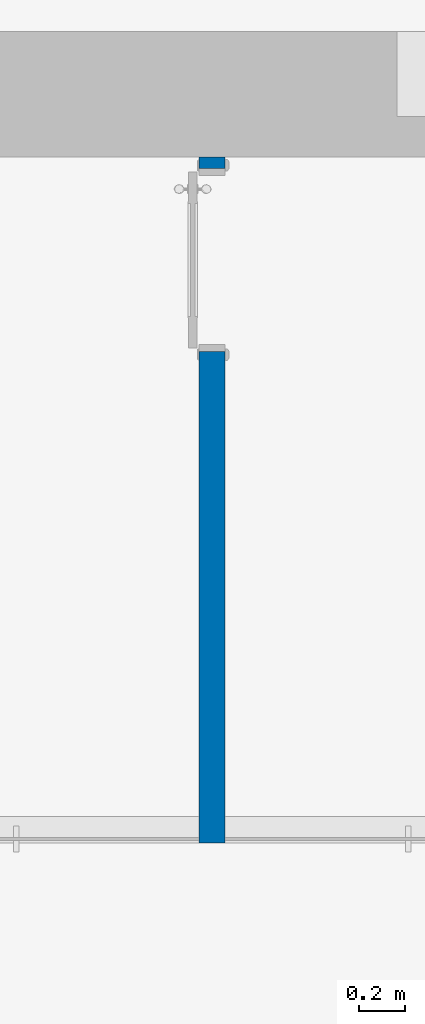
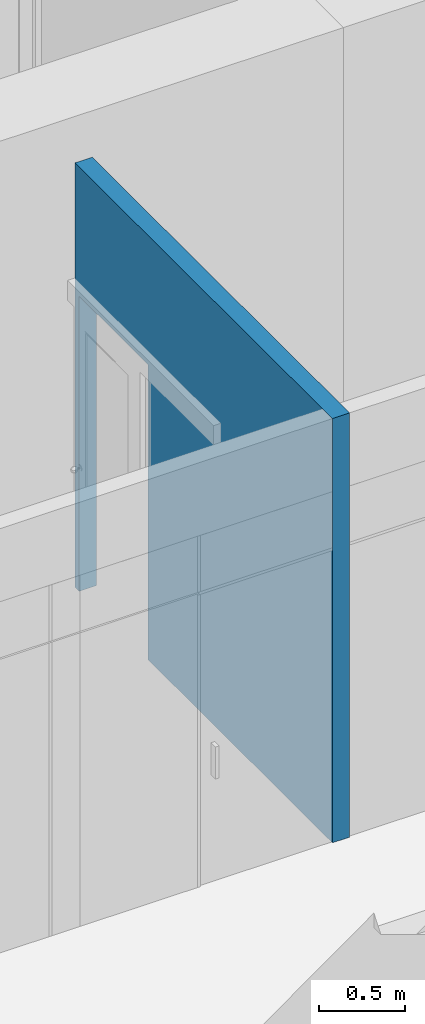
# One storey, part 21 of 49: 1 wall, 1 opening.
"""IFC2X3 building model written with IfcOpenShell, lengths in millimetres."""

from ifc_helpers import new_model, entity, si_unit, converted_unit, derived_unit, direction, frame, frame_2d, origin, place, context, subcontext, project, spatial, rectangle, extrude, material, layer, layer_set, layer_usage, type_object, element, save


model = new_model("IFC2X3")

# Units and contexts
model_context = context("Model", 3, precision=0.01, world=origin(), true_north=direction((6.12303176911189e-17, 1.0)))
body_context = subcontext(model_context, "Body", "Model", "MODEL_VIEW")
ifc_project = project(units=[si_unit("LENGTHUNIT", "METRE", prefix="MILLI"), si_unit("AREAUNIT", "SQUARE_METRE"), si_unit("VOLUMEUNIT", "CUBIC_METRE"), converted_unit("PLANEANGLEUNIT", "DEGREE", entity("IfcRatioMeasure", 0.0174532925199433), si_unit("PLANEANGLEUNIT", "RADIAN"), dimensions=[0, 0, 0, 0, 0, 0, 0]), si_unit("MASSUNIT", "GRAM", prefix="KILO"), derived_unit("MASSDENSITYUNIT", [(si_unit("MASSUNIT", "GRAM", prefix="KILO"), 1), (si_unit("LENGTHUNIT", "METRE"), -3)]), si_unit("TIMEUNIT", "SECOND"), si_unit("FREQUENCYUNIT", "HERTZ"), si_unit("THERMODYNAMICTEMPERATUREUNIT", "DEGREE_CELSIUS"), derived_unit("THERMALTRANSMITTANCEUNIT", [(si_unit("MASSUNIT", "GRAM", prefix="KILO"), 1), (si_unit("THERMODYNAMICTEMPERATUREUNIT", "KELVIN"), -1), (si_unit("TIMEUNIT", "SECOND"), -3)]), derived_unit("VOLUMETRICFLOWRATEUNIT", [(si_unit("LENGTHUNIT", "METRE"), 3), (si_unit("TIMEUNIT", "SECOND"), -1)]), si_unit("ELECTRICCURRENTUNIT", "AMPERE"), si_unit("ELECTRICVOLTAGEUNIT", "VOLT"), si_unit("POWERUNIT", "WATT"), si_unit("FORCEUNIT", "NEWTON", prefix="KILO"), si_unit("ILLUMINANCEUNIT", "LUX"), si_unit("LUMINOUSFLUXUNIT", "LUMEN"), si_unit("LUMINOUSINTENSITYUNIT", "CANDELA"), derived_unit("USERDEFINED", [(si_unit("MASSUNIT", "GRAM", prefix="KILO"), -1), (si_unit("LENGTHUNIT", "METRE"), -2), (si_unit("TIMEUNIT", "SECOND"), 3), (si_unit("LUMINOUSFLUXUNIT", "LUMEN"), 1)]), derived_unit("LINEARVELOCITYUNIT", [(si_unit("LENGTHUNIT", "METRE"), 1), (si_unit("TIMEUNIT", "SECOND"), -1)]), si_unit("PRESSUREUNIT", "PASCAL"), derived_unit("USERDEFINED", [(si_unit("LENGTHUNIT", "METRE"), -2), (si_unit("MASSUNIT", "GRAM", prefix="KILO"), 1), (si_unit("TIMEUNIT", "SECOND"), -2)])], contexts=[model_context])

# Site, building, storey
site_placement = place(None, frame((-151.875543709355, 2715.0, 0.0)))
site = spatial("IfcSite", under=ifc_project, at=site_placement, Name="Surface", CompositionType="ELEMENT")
building_placement = place(site_placement, origin())
building = spatial("IfcBuilding", under=site, at=building_placement, CompositionType="ELEMENT")
storey_placement = place(building_placement, origin())
storey = spatial("IfcBuildingStorey", under=building, at=storey_placement, Name="1 korrus", CompositionType="ELEMENT", Elevation=3.0969999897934e-10)

# Wall, opening
ifc_material_1 = material(Name="__Kips GN13_tava")
ifc_layer_1 = layer(ifc_material_1, 12.5)
ifc_layer_2 = layer(ifc_material_1, 12.5)
ifc_material_2 = material(Name="__Soojustus EPS")
ifc_layer_3 = layer(ifc_material_2, 66.0)
ifc_layer_4 = layer(ifc_material_1, 12.5)
ifc_layer_5 = layer(ifc_material_1, 12.5)
ifc_layer_set = layer_set([ifc_layer_1, ifc_layer_2, ifc_layer_3, ifc_layer_4, ifc_layer_5], Name="Basic Wall:SS-3_Kipssein tava ruumide vahel")
ifc_layer_usage = layer_usage(ifc_layer_set, "AXIS2", "POSITIVE", -58.0)
wall_type = type_object("IfcWallType", Name="Basic Wall:SS-3_Kipssein tava ruumide vahel", PredefinedType="STANDARD", material=ifc_layer_set)
wall_placement = place(storey_placement, frame((14480.2710850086, 3007.5, 0.0), z_axis=(0.0, 0.0, 1.0), x_axis=(0.0, 1.0, 0.0)))
wall = element("IfcWallStandardCase", 1, at=wall_placement, inside=storey, type_object=wall_type, material=ifc_layer_usage, Name="Basic Wall:SS-3_Kipssein tava ruumide vahel", ObjectType="Basic Wall:SS-3_Kipssein tava ruumide vahel", context=body_context, shape_type="SweptSolid", body=[
    extrude(rectangle(XDim=3002.5, YDim=116.0, at=frame_2d((1501.25, 1.59872115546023e-13), x_axis=(-1.0, 0.0))), origin(), (0.0, 0.0, 1.0), 3020.0),
])
opening_placement = place(wall_placement, frame((2152.5, -58.0, 0.0)))
element("IfcOpeningElement", 2, at=opening_placement, cuts=wall, Name="Lükanduks:SU-18:1", ObjectType="Opening", context=body_context, shape_type="SweptSolid", body=[
    extrude(rectangle(XDim=2099.99999999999, YDim=800.0, at=frame_2d((1049.99999999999, 400.0), x_axis=(1.0, 0.0))), frame((0.0, 0.0, 0.0), z_axis=(0.0, 1.0, 0.0), x_axis=(0.0, 0.0, 1.0)), (0.0, 0.0, 1.0), 116.0),
])

save(model, "model.ifc")
